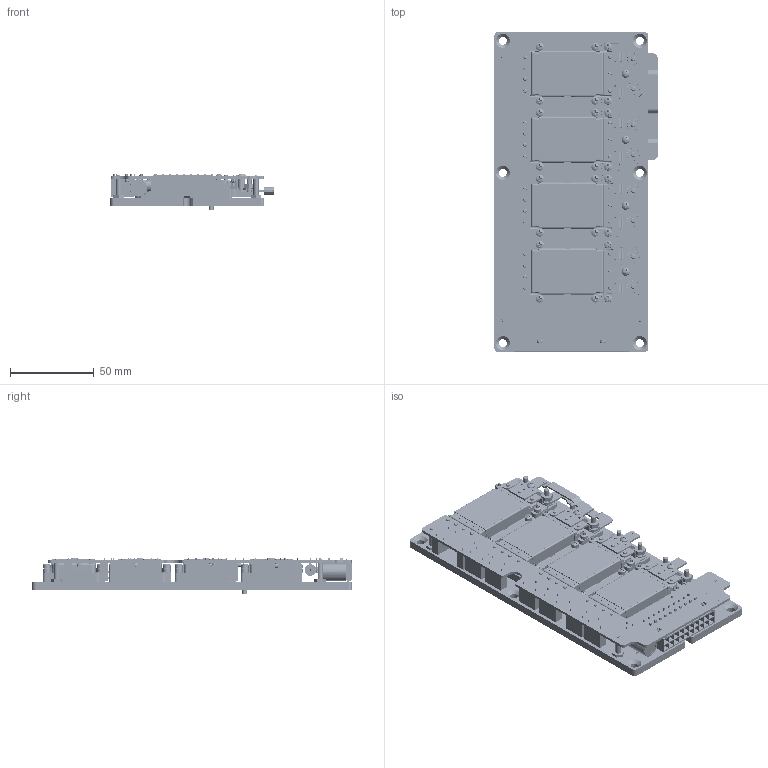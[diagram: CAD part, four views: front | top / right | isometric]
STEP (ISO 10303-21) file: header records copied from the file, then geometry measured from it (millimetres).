
FILE_DESCRIPTION (( 'STEP AP214' ), '1' );
FILE_NAME ('VA-F-LUG-3OUT.STEP', '2011-02-16T17:02:51', ( 'Vicor Employee' ), ( 'Vicor Corporation' ), 'SwSTEP 2.0', 'SolidWorks 2011', '' );
FILE_SCHEMA (( 'AUTOMOTIVE_DESIGN' ));
Length unit declared in the file: inch
Products named in the file (1): VA-F-LUG-3OUT
Bounding box: 97.88 x 191.57 x 22.08 mm (x, y, z)
Volume: 149136 mm3; surface area: 127697.9 mm2
Topology: 1 solids, 1 shells, 9017 faces, 24575 edges, 15736 vertices
Faces by surface type: plane 4877, cylinder 2670, bspline 720, cone 460, torus 170, sphere 120
Entity records: 458009 total; most frequent: CARTESIAN_POINT 117489, ORIENTED_EDGE 49022, DIRECTION 43763, EDGE_CURVE 24511, VERTEX_POINT 15736, LINE 14857, VECTOR 14857, AXIS2_PLACEMENT_3D 14453
